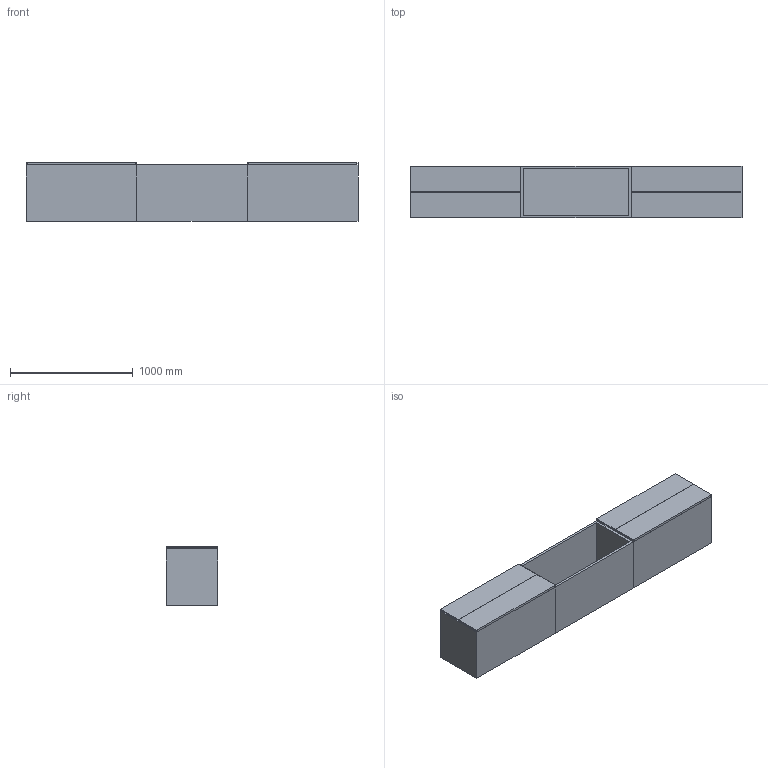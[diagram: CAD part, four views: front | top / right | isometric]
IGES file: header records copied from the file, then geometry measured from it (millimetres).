
Start section: SolidWorks IGES file using NURBS representation for surfaces
Global section: file name: G:\VICCARBE\PRODUCTOS\20-DO IT\04-MODELADOS (PLANOS)\SOLIDWORKS\Composiciones\IGES\VICCARBE_Do_It_Comp01.IGS; native system: SolidWorks 2009; preprocessor: SolidWorks 2009; author: RUBEN; date: 111102.121821; units: millimetre
Bounding box: 2700 x 420 x 479 mm (x, y, z)
Surface area: 10855768 mm2 (no closed solid volume)
Topology: 0 solids, 0 shells, 73 faces, 336 edges, 336 vertices
Faces by surface type: bspline 73
